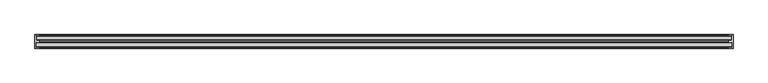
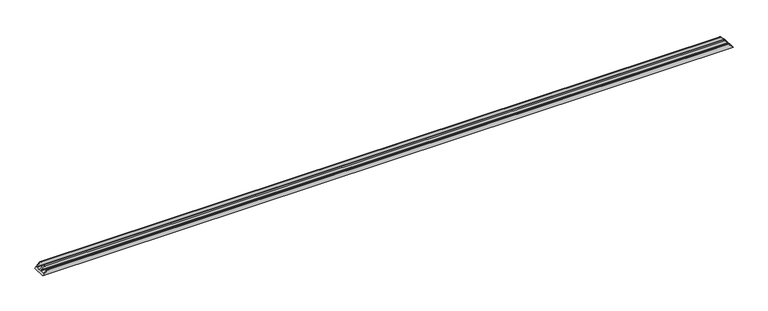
"""IFC4 building model written with IfcOpenShell, lengths in millimetres: proxy geometry, Weiku - Montante - Caixilho duplo 02.3.02.409 : Weiku - Montante - Caixilho duplo 02.3.02.409."""

from ifc_helpers import new_model, si_unit, frame, origin, place, context, project, spatial, ellipse_curve, source, transform, mapped, element, save
from ifc_brep_helpers import plane_surface, cylinder_surface, advanced_brep


def generic_models_ca1db339(model_context):
    return source(origin(), model_context, "Body", "AdvancedBrep", [
        advanced_brep(
        [(-3977.8, 9.8, 18.2), (-3940.1, 9.8, 55.9), (3940.1, 9.8, 55.9), (3977.8, 9.8, 18.2), (-3980.3000079, 63.85, 15.6999921), (-3980.3000079, 15.05, 15.6999921), (3980.3000079, 15.05, 15.6999921), (3980.3000079, 63.85, 15.6999921), (-3940.1000055, 69.1, 55.8999945), (-3972.1700642, 69.1, 23.8299358), (3972.1700642, 69.1, 23.8299358), (3940.1000055, 69.1, 55.8999945), (-3939.6000055, 86.65, 56.3999945), (-3939.6000055, 69.6, 56.3999945), (3939.6000055, 69.6, 56.3999945), (3939.6000055, 86.65, 56.3999945), (-3972.2236827, 87.15, 23.7763173), (-3940.1000055, 87.15, 55.8999945), (3940.1000055, 87.15, 55.8999945), (3972.2236827, 87.15, 23.7763173), (-3996.0, 156.2000166, 0.0), (3996.0, 156.2000166, 0.0), (3996.0, 0.0, 0.0), (-3996.0, 0.0, 0.0), (3940.1, 0.0, 55.9), (-3940.1, 0.0, 55.9), (-3939.6, 9.3, 56.4), (-3939.6, 0.5, 56.4), (3939.6, 0.5, 56.4), (3939.6, 9.3, 56.4), (-3977.8, 15.05, 18.2), (-3977.8, 63.85, 18.2), (-3977.8000178, 92.3500166, 18.1999822), (-3980.3000079, 92.3500166, 15.6999921), (-3980.3000079, 141.1500166, 15.6999921), (-3977.8, 141.1500166, 18.2), (-3977.8, 146.4000166, 18.2), (-3940.1, 146.4000166, 55.9), (-3939.6, 146.9000166, 56.4), (-3939.6, 155.7000166, 56.4), (-3940.1, 156.2000166, 55.9), (3940.1, 156.2000166, 55.9), (3939.6, 155.7000166, 56.4), (3939.6, 146.9000166, 56.4), (3940.1, 146.4000166, 55.9), (3977.8, 146.4000166, 18.2), (3977.8, 141.1500166, 18.2), (3980.3000079, 141.1500166, 15.6999921), (3980.3000079, 92.3500166, 15.6999921), (3977.8000178, 92.3500166, 18.1999822), (3977.8, 63.85, 18.2), (3977.8, 15.05, 18.2)],
        [
            (0, 1),
            (1, 2),
            (2, 3),
            (3, 0),
            (4, 5),
            (5, 6),
            (6, 7),
            (7, 4),
            (8, 9),
            (9, 10),
            (10, 11),
            (11, 8),
            (12, 13),
            (13, 14),
            (14, 15),
            (15, 12),
            (16, 17),
            (17, 18),
            (18, 19),
            (19, 16),
            (20, 21),
            (21, 22),
            (22, 23),
            (23, 20),
            (22, 24),
            (24, 25),
            (25, 23),
            (26, 27),
            (27, 28),
            (28, 29),
            (29, 26),
            (0, 30),
            (30, 5),
            (4, 31),
            (31, 9),
            (8, 13, ellipse_curve(frame((-3940.1000055, 69.6, 55.8999945), z_axis=(-0.7071067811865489, 0.0, 0.7071067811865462), x_axis=(-0.707106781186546, 0.0, -0.7071067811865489)), 0.7071068, 0.5)),
            (12, 17, ellipse_curve(frame((-3940.1000055, 86.65, 55.8999945), z_axis=(-0.7071067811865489, 0.0, 0.7071067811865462), x_axis=(-0.707106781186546, 0.0, -0.7071067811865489)), 0.7071068, 0.5)),
            (16, 32),
            (32, 33),
            (33, 34),
            (34, 35),
            (35, 36),
            (36, 37),
            (37, 38, ellipse_curve(frame((-3940.1, 146.9000166, 55.9), z_axis=(-0.7071067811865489, 0.0, 0.7071067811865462), x_axis=(-0.707106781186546, 0.0, -0.7071067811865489)), 0.7071068, 0.5)),
            (38, 39),
            (39, 40, ellipse_curve(frame((-3940.1, 155.7000166, 55.9), z_axis=(-0.7071067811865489, 0.0, 0.7071067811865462), x_axis=(-0.707106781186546, 0.0, -0.7071067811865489)), 0.7071068, 0.5)),
            (40, 20),
            (25, 27, ellipse_curve(frame((-3940.1, 0.5, 55.9), z_axis=(-0.7071067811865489, 0.0, 0.7071067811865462), x_axis=(-0.707106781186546, 0.0, -0.7071067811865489)), 0.7071068, 0.5)),
            (26, 1, ellipse_curve(frame((-3940.1, 9.3, 55.9), z_axis=(-0.7071067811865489, 0.0, 0.7071067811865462), x_axis=(-0.707106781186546, 0.0, -0.7071067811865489)), 0.7071068, 0.5)),
            (2, 29, ellipse_curve(frame((3940.1, 9.3, 55.9), z_axis=(0.7071067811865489, 0.0, 0.7071067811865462), x_axis=(-0.707106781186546, 0.0, 0.7071067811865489)), 0.7071068, 0.5)),
            (28, 24, ellipse_curve(frame((3940.1, 0.5, 55.9), z_axis=(0.7071067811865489, 0.0, 0.7071067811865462), x_axis=(-0.707106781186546, 0.0, 0.7071067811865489)), 0.7071068, 0.5)),
            (21, 41),
            (41, 42, ellipse_curve(frame((3940.1, 155.7000166, 55.9), z_axis=(0.7071067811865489, 0.0, 0.7071067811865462), x_axis=(-0.707106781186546, 0.0, 0.7071067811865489)), 0.7071068, 0.5)),
            (42, 43),
            (43, 44, ellipse_curve(frame((3940.1, 146.9000166, 55.9), z_axis=(0.7071067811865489, 0.0, 0.7071067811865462), x_axis=(-0.707106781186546, 0.0, 0.7071067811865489)), 0.7071068, 0.5)),
            (44, 45),
            (45, 46),
            (46, 47),
            (47, 48),
            (48, 49),
            (49, 19),
            (18, 15, ellipse_curve(frame((3940.1000055, 86.65, 55.8999945), z_axis=(0.7071067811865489, 0.0, 0.7071067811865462), x_axis=(-0.707106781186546, 0.0, 0.7071067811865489)), 0.7071068, 0.5)),
            (14, 11, ellipse_curve(frame((3940.1000055, 69.6, 55.8999945), z_axis=(0.7071067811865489, 0.0, 0.7071067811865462), x_axis=(-0.707106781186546, 0.0, 0.7071067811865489)), 0.7071068, 0.5)),
            (10, 50),
            (50, 7),
            (6, 51),
            (51, 3),
            (51, 30),
            (50, 31),
            (49, 32),
            (48, 33),
            (47, 34),
            (46, 35),
            (45, 36),
            (44, 37),
            (38, 43),
            (42, 39),
            (41, 40),
        ],
        [
            plane_surface(frame((-3996.0, 9.8, 55.9), z_axis=(0.0, 1.0, 0.0), x_axis=(1.0, 0.0, 0.0))),
            plane_surface(frame((-3996.0, 15.05, 15.6999921), z_axis=(0.0, 0.0, 1.0), x_axis=(1.0, 0.0, 0.0))),
            plane_surface(frame((-3996.0, 69.1, 23.8299358), z_axis=(0.0, -1.0, 0.0), x_axis=(1.0, 0.0, 0.0))),
            plane_surface(frame((-3996.0, 69.6, 56.3999945), z_axis=(0.0, 0.0, 1.0), x_axis=(1.0, 0.0, 0.0))),
            plane_surface(frame((-3996.0, 87.15, 55.8999945), z_axis=(0.0, 1.0, 0.0), x_axis=(1.0, 0.0, 0.0))),
            plane_surface(frame((-3996.0, 156.2000166, 0.0), z_axis=(0.0, 0.0, -1.0), x_axis=(1.0, 0.0, 0.0))),
            plane_surface(frame((-3996.0, 0.0, 0.0), z_axis=(0.0, -1.0, 0.0), x_axis=(1.0, 0.0, 0.0))),
            plane_surface(frame((-3996.0, 0.5, 56.4), z_axis=(0.0, 0.0, 1.0), x_axis=(1.0, 0.0, 0.0))),
            plane_surface(frame((-3996.0, 0.0, 0.0), z_axis=(-0.7071067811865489, 0.0, 0.7071067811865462), x_axis=(0.0, 1.0, 0.0))),
            plane_surface(frame((3936.0, 0.0, 60.0), z_axis=(0.7071067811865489, 0.0, 0.7071067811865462), x_axis=(0.0, 1.0, 0.0))),
            plane_surface(frame((-3996.0, 9.8, 18.2), z_axis=(0.0, 0.0, 1.0), x_axis=(1.0, 0.0, 0.0))),
            plane_surface(frame((-3996.0, 15.05, 18.2), z_axis=(0.0, 1.0, 0.0), x_axis=(1.0, 0.0, 0.0))),
            plane_surface(frame((-3996.0, 63.85, 15.6999921), z_axis=(0.0, -1.0, 0.0), x_axis=(1.0, 0.0, 0.0))),
            plane_surface(frame((-3996.0, 63.85, 18.2), z_axis=(0.0, -0.7313537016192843, 0.6819983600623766), x_axis=(1.0, 0.0, 0.0))),
            cylinder_surface(frame((-3996.0, 86.65, 55.8999945), z_axis=(-1.0, 0.0, 0.0), x_axis=(0.0, 1.0, 0.0)), 0.5),
            cylinder_surface(frame((-3996.0, 0.5, 55.9), z_axis=(-1.0, 0.0, 0.0), x_axis=(0.0, 1.0, 0.0)), 0.5),
            plane_surface(frame((-3996.0, 87.15, 23.7763173), z_axis=(0.0, 0.7313537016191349, 0.6819983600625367), x_axis=(1.0, 0.0, 0.0))),
            plane_surface(frame((-3996.0, 92.3500166, 18.1999822), z_axis=(0.0, 1.0, 0.0), x_axis=(1.0, 0.0, 0.0))),
            plane_surface(frame((-3996.0, 92.3500166, 15.6999921), z_axis=(0.0, 0.0, 1.0), x_axis=(1.0, 0.0, 0.0))),
            plane_surface(frame((-3996.0, 141.1500166, 15.6999921), z_axis=(0.0, -1.0, 0.0), x_axis=(1.0, 0.0, 0.0))),
            plane_surface(frame((-3996.0, 141.1500166, 18.2), z_axis=(0.0, 0.0, 1.0), x_axis=(1.0, 0.0, 0.0))),
            plane_surface(frame((-3996.0, 146.4000166, 18.2), z_axis=(0.0, -1.0, 0.0), x_axis=(1.0, 0.0, 0.0))),
            plane_surface(frame((-3996.0, 146.9000166, 56.4), z_axis=(0.0, 0.0, 1.0), x_axis=(1.0, 0.0, 0.0))),
            cylinder_surface(frame((-3996.0, 155.7000166, 55.9), z_axis=(-1.0, 0.0, 0.0), x_axis=(0.0, -1.0, 0.0)), 0.5),
            plane_surface(frame((-3996.0, 156.2000166, 55.9), z_axis=(0.0, 1.0, 0.0), x_axis=(1.0, 0.0, 0.0))),
            cylinder_surface(frame((-3996.0, 9.3, 55.9), z_axis=(-1.0, 0.0, 0.0), x_axis=(0.0, 1.0, 0.0)), 0.5),
            cylinder_surface(frame((-3996.0, 69.6, 55.8999945), z_axis=(-1.0, 0.0, 0.0), x_axis=(0.0, 1.0, 0.0)), 0.5),
            cylinder_surface(frame((-3996.0, 146.9000166, 55.9), z_axis=(-1.0, 0.0, 0.0), x_axis=(0.0, 1.0, 0.0)), 0.5),
        ],
        [
            (0, [[1, 2, 3, 4]]),
            (1, [[5, 6, 7, 8]]),
            (2, [[9, 10, 11, 12]]),
            (3, [[13, 14, 15, 16]]),
            (4, [[17, 18, 19, 20]]),
            (5, [[21, 22, 23, 24]]),
            (6, [[-23, 25, 26, 27]]),
            (7, [[28, 29, 30, 31]]),
            (8, [[-1, 32, 33, -5, 34, 35, -9, 36, -13, 37, -17, 38, 39, 40, 41, 42, 43, 44, 45, 46, 47, -24, -27, 48, -28, 49]]),
            (9, [[-3, 50, -30, 51, -25, -22, 52, 53, 54, 55, 56, 57, 58, 59, 60, 61, -19, 62, -15, 63, -11, 64, 65, -7, 66, 67]]),
            (10, [[-32, -4, -67, 68]]),
            (11, [[-33, -68, -66, -6]]),
            (12, [[-34, -8, -65, 69]]),
            (13, [[-35, -69, -64, -10]]),
            (14, [[-37, -16, -62, -18]]),
            (15, [[-48, -26, -51, -29]]),
            (16, [[-38, -20, -61, 70]]),
            (17, [[-39, -70, -60, 71]]),
            (18, [[-40, -71, -59, 72]]),
            (19, [[-41, -72, -58, 73]]),
            (20, [[-42, -73, -57, 74]]),
            (21, [[-43, -74, -56, 75]]),
            (22, [[-45, 76, -54, 77]]),
            (23, [[-46, -77, -53, 78]]),
            (24, [[-21, -47, -78, -52]]),
            (25, [[-49, -31, -50, -2]]),
            (26, [[-36, -12, -63, -14]]),
            (27, [[-44, -75, -55, -76]]),
        ],
    ),
    ])


if __name__ == "__main__":
    model = new_model("IFC4")
    model_context = context("Model", 3, world=origin())
    ifc_project = project(units=[si_unit("LENGTHUNIT", "METRE", prefix="MILLI")], contexts=[model_context])
    site = spatial("IfcSite", under=ifc_project)
    building = spatial("IfcBuilding", under=site)
    placement = place(None, origin())
    generic_models_shape = generic_models_ca1db339(model_context)
    element("IfcBuildingElementProxy", 1, Name="Weiku - Montante - Caixilho duplo 02.3.02.409 : Weiku - Montante - Caixilho duplo 02.3.02.409", ObjectType="Weiku - Montante - Caixilho duplo 02.3.02.409 : Weiku - Montante - Caixilho duplo 02.3.02.409", at=placement, inside=building, context=model_context, shape_type="MappedRepresentation", body=[
        mapped(generic_models_shape, transform((0.0, 0.0, 0.0), x_axis=(1.0, 0.0, 0.0), y_axis=(0.0, 1.0, 0.0), z_axis=(0.0, 0.0, 1.0))),
    ])
    save(model, "model.ifc")
